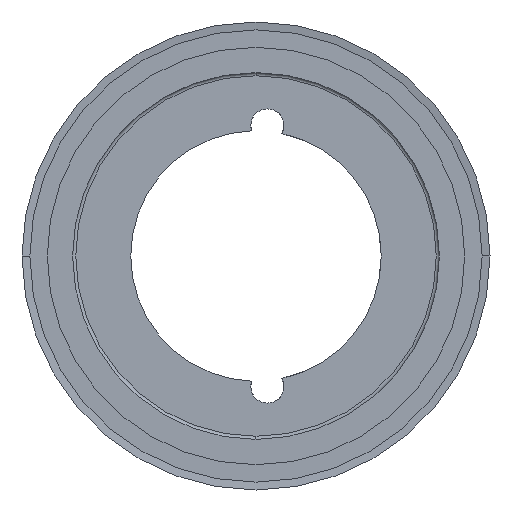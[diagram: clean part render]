
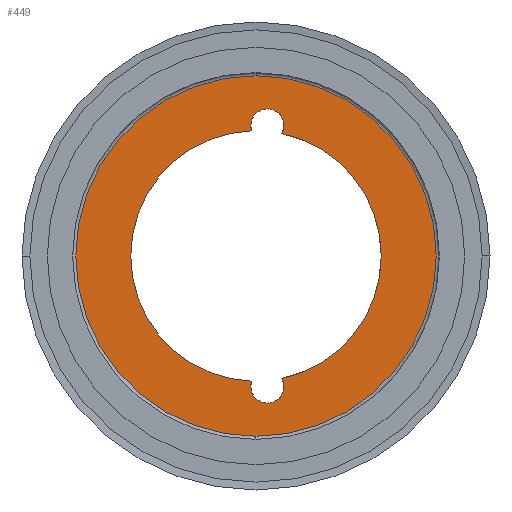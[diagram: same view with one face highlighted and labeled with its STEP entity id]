
A CAD part, left-side view. The second image highlights one B-rep face of the part: STEP entity #449.
In plain terms, the highlighted planar face has unit normal (-1, 0, 0).
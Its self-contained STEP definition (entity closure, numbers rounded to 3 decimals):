
#449 = ADVANCED_FACE( '', ( #1210, #1211 ), #1212, .T. );
#1210 = FACE_BOUND( '', #1982, .T. );
#1211 = FACE_OUTER_BOUND( '', #1983, .T. );
#1212 = PLANE( '', #1984 );
#1982 = EDGE_LOOP( '', ( #5303, #5304, #5305, #5306, #5307, #5308, #5309, #5310, #5311, #5312 ) );
#1983 = EDGE_LOOP( '', ( #5313, #5314, #5315 ) );
#1984 = AXIS2_PLACEMENT_3D( '', #5316, #5317, #5318 );
#5303 = ORIENTED_EDGE( '', *, *, #5454, .T. );
#5304 = ORIENTED_EDGE( '', *, *, #5457, .T. );
#5305 = ORIENTED_EDGE( '', *, *, #5456, .T. );
#5306 = ORIENTED_EDGE( '', *, *, #5449, .F. );
#5307 = ORIENTED_EDGE( '', *, *, #5461, .F. );
#5308 = ORIENTED_EDGE( '', *, *, #5465, .T. );
#5309 = ORIENTED_EDGE( '', *, *, #5441, .T. );
#5310 = ORIENTED_EDGE( '', *, *, #5436, .T. );
#5311 = ORIENTED_EDGE( '', *, *, #5462, .F. );
#5312 = ORIENTED_EDGE( '', *, *, #5447, .F. );
#5313 = ORIENTED_EDGE( '', *, *, #6485, .T. );
#5314 = ORIENTED_EDGE( '', *, *, #5399, .T. );
#5315 = ORIENTED_EDGE( '', *, *, #6486, .T. );
#5316 = CARTESIAN_POINT( '', ( 7.5, 48.302, 0. ) );
#5317 = DIRECTION( '', ( -1., 0., 0. ) );
#5318 = DIRECTION( '', ( 0., 1., 0. ) );
#5399 = EDGE_CURVE( '', #6527, #6533, #6535, .T. );
#5436 = EDGE_CURVE( '', #6596, #6599, #6601, .T. );
#5441 = EDGE_CURVE( '', #6603, #6596, #6610, .T. );
#5447 = EDGE_CURVE( '', #6619, #6611, #6621, .T. );
#5449 = EDGE_CURVE( '', #6622, #6625, #6626, .T. );
#5454 = EDGE_CURVE( '', #6619, #6632, #6634, .T. );
#5456 = EDGE_CURVE( '', #6635, #6625, #6637, .T. );
#5457 = EDGE_CURVE( '', #6632, #6635, #6638, .T. );
#5461 = EDGE_CURVE( '', #6641, #6622, #6643, .T. );
#5462 = EDGE_CURVE( '', #6611, #6599, #6644, .T. );
#5465 = EDGE_CURVE( '', #6641, #6603, #6647, .T. );
#6485 = EDGE_CURVE( '', #8339, #6527, #8340, .T. );
#6486 = EDGE_CURVE( '', #6533, #8339, #8341, .T. );
#6527 = VERTEX_POINT( '', #8389 );
#6533 = VERTEX_POINT( '', #8395 );
#6535 = CIRCLE( '', #8397, 57. );
#6596 = VERTEX_POINT( '', #8513 );
#6599 = VERTEX_POINT( '', #8517 );
#6601 = CIRCLE( '', #8528, 5.25 );
#6603 = VERTEX_POINT( '', #8530 );
#6610 = CIRCLE( '', #8556, 5.25 );
#6611 = VERTEX_POINT( '', #8557 );
#6619 = VERTEX_POINT( '', #8580 );
#6621 = CIRCLE( '', #8591, 39.603 );
#6622 = VERTEX_POINT( '', #8592 );
#6625 = VERTEX_POINT( '', #8596 );
#6626 = CIRCLE( '', #8597, 39.603 );
#6632 = VERTEX_POINT( '', #8621 );
#6634 = CIRCLE( '', #8624, 5.25 );
#6635 = VERTEX_POINT( '', #8625 );
#6637 = CIRCLE( '', #8628, 5.25 );
#6638 = CIRCLE( '', #8629, 5.25 );
#6641 = VERTEX_POINT( '', #8632 );
#6643 = CIRCLE( '', #8643, 39.603 );
#6644 = CIRCLE( '', #8644, 39.603 );
#6647 = CIRCLE( '', #8680, 5.25 );
#8339 = VERTEX_POINT( '', #10932 );
#8340 = CIRCLE( '', #10933, 57. );
#8341 = CIRCLE( '', #10934, 57. );
#8389 = CARTESIAN_POINT( '', ( 7.5, 0., -57. ) );
#8395 = CARTESIAN_POINT( '', ( 7.5, 0., 57. ) );
#8397 = AXIS2_PLACEMENT_3D( '', #10993, #10994, #10995 );
#8513 = CARTESIAN_POINT( '', ( 7.5, 1.653, -41.275 ) );
#8517 = CARTESIAN_POINT( '', ( 7.5, 1.371, -39.58 ) );
#8528 = AXIS2_PLACEMENT_3D( '', #11059, #11060, #11061 );
#8530 = CARTESIAN_POINT( '', ( 7.5, -8.847, -41.275 ) );
#8556 = AXIS2_PLACEMENT_3D( '', #11066, #11067, #11068 );
#8557 = CARTESIAN_POINT( '', ( 7.5, 39.603, 0. ) );
#8580 = CARTESIAN_POINT( '', ( 7.5, 1.371, 39.58 ) );
#8591 = AXIS2_PLACEMENT_3D( '', #11073, #11074, #11075 );
#8592 = CARTESIAN_POINT( '', ( 7.5, -39.603, 0. ) );
#8596 = CARTESIAN_POINT( '', ( 7.5, -8.198, 38.746 ) );
#8597 = AXIS2_PLACEMENT_3D( '', #11077, #11078, #11079 );
#8621 = CARTESIAN_POINT( '', ( 7.5, 1.653, 41.275 ) );
#8624 = AXIS2_PLACEMENT_3D( '', #11084, #11085, #11086 );
#8625 = CARTESIAN_POINT( '', ( 7.5, -8.847, 41.275 ) );
#8628 = AXIS2_PLACEMENT_3D( '', #11088, #11089, #11090 );
#8629 = AXIS2_PLACEMENT_3D( '', #11091, #11092, #11093 );
#8632 = CARTESIAN_POINT( '', ( 7.5, -8.198, -38.746 ) );
#8643 = AXIS2_PLACEMENT_3D( '', #11100, #11101, #11102 );
#8644 = AXIS2_PLACEMENT_3D( '', #11103, #11104, #11105 );
#8680 = AXIS2_PLACEMENT_3D( '', #11109, #11110, #11111 );
#10932 = CARTESIAN_POINT( '', ( 7.5, 57., 0. ) );
#10933 = AXIS2_PLACEMENT_3D( '', #13049, #13050, #13051 );
#10934 = AXIS2_PLACEMENT_3D( '', #13052, #13053, #13054 );
#10993 = CARTESIAN_POINT( '', ( 7.5, 0., 0. ) );
#10994 = DIRECTION( '', ( -1., 0., 0. ) );
#10995 = DIRECTION( '', ( 0., 1., 0. ) );
#11059 = CARTESIAN_POINT( '', ( 7.5, -3.597, -41.275 ) );
#11060 = DIRECTION( '', ( 1., 0., 0. ) );
#11061 = DIRECTION( '', ( 0., -1., 0. ) );
#11066 = CARTESIAN_POINT( '', ( 7.5, -3.597, -41.275 ) );
#11067 = DIRECTION( '', ( 1., 0., 0. ) );
#11068 = DIRECTION( '', ( 0., -1., 0. ) );
#11073 = CARTESIAN_POINT( '', ( 7.5, 0., 0. ) );
#11074 = DIRECTION( '', ( -1., 0., 0. ) );
#11075 = DIRECTION( '', ( 0., 1., 0. ) );
#11077 = CARTESIAN_POINT( '', ( 7.5, 0., 0. ) );
#11078 = DIRECTION( '', ( -1., 0., 0. ) );
#11079 = DIRECTION( '', ( 0., 1., 0. ) );
#11084 = CARTESIAN_POINT( '', ( 7.5, -3.597, 41.275 ) );
#11085 = DIRECTION( '', ( 1., 0., 0. ) );
#11086 = DIRECTION( '', ( 0., -1., 0. ) );
#11088 = CARTESIAN_POINT( '', ( 7.5, -3.597, 41.275 ) );
#11089 = DIRECTION( '', ( 1., 0., 0. ) );
#11090 = DIRECTION( '', ( 0., -1., 0. ) );
#11091 = CARTESIAN_POINT( '', ( 7.5, -3.597, 41.275 ) );
#11092 = DIRECTION( '', ( 1., 0., 0. ) );
#11093 = DIRECTION( '', ( 0., -1., 0. ) );
#11100 = CARTESIAN_POINT( '', ( 7.5, 0., 0. ) );
#11101 = DIRECTION( '', ( -1., 0., 0. ) );
#11102 = DIRECTION( '', ( 0., 1., 0. ) );
#11103 = CARTESIAN_POINT( '', ( 7.5, 0., 0. ) );
#11104 = DIRECTION( '', ( -1., 0., 0. ) );
#11105 = DIRECTION( '', ( 0., 1., 0. ) );
#11109 = CARTESIAN_POINT( '', ( 7.5, -3.597, -41.275 ) );
#11110 = DIRECTION( '', ( 1., 0., 0. ) );
#11111 = DIRECTION( '', ( 0., -1., 0. ) );
#13049 = CARTESIAN_POINT( '', ( 7.5, 0., 0. ) );
#13050 = DIRECTION( '', ( -1., 0., 0. ) );
#13051 = DIRECTION( '', ( 0., 1., 0. ) );
#13052 = CARTESIAN_POINT( '', ( 7.5, 0., 0. ) );
#13053 = DIRECTION( '', ( -1., 0., 0. ) );
#13054 = DIRECTION( '', ( 0., 1., 0. ) );
